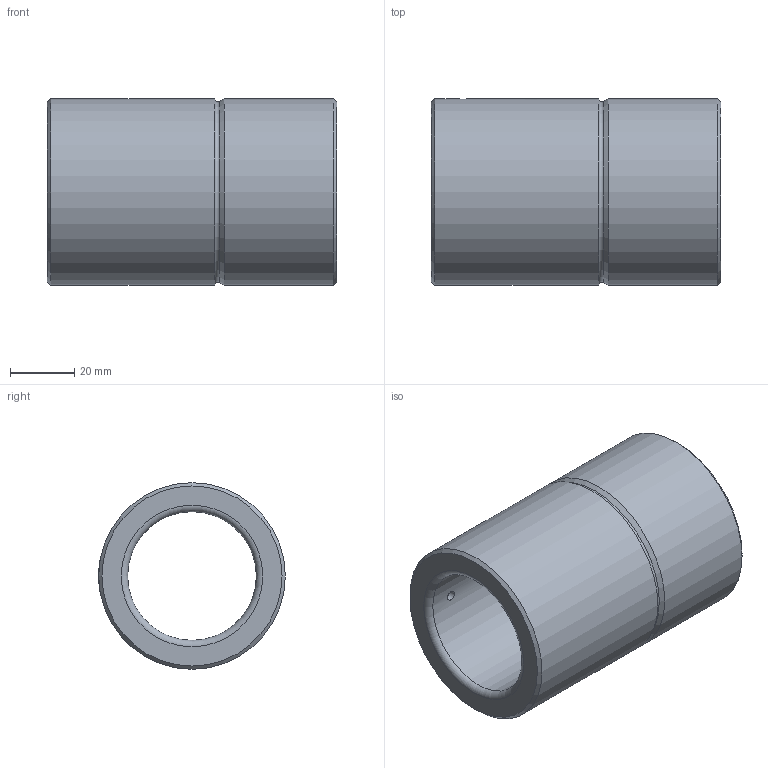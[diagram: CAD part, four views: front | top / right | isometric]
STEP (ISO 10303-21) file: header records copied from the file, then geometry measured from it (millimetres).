
FILE_DESCRIPTION( ( 'STEP AP214' ), '1' );
FILE_NAME( 'p:/temp/worker_347/temp/exporttempdir_5672_375_j487b/format_0/WZ 4068 40 x 90.stp', '2020-11-26T19:23:18', ( 'License CC BY-ND 4.0' ), ( 'CADENAS' ), ' ', 'PARTsolutions', ' ' );
FILE_SCHEMA( ( 'AUTOMOTIVE_DESIGN { 1 0 10303 214 1 1 1 1 }' ) );
Length unit declared in the file: millimetre
Products named in the file (1): _WZ 4068 40 x 90
Bounding box: 90 x 58.04 x 58.04 mm (x, y, z)
Volume: 118951.6 mm3; surface area: 30638.8 mm2
Topology: 1 solids, 1 shells, 16 faces, 29 edges, 17 vertices
Faces by surface type: cylinder 6, cone 4, plane 4, torus 2
Full cylindrical faces by diameter (mm): 3 x1, 5 x1, 40 x1, 42 x1, 58.04 x2
Entity records: 592 total; most frequent: CARTESIAN_POINT 163, DIRECTION 64, EDGE_LOOP 34, ORIENTED_EDGE 34, AXIS2_PLACEMENT_3D 32, FACE_OUTER_BOUND 24, EDGE_CURVE 17, VERTEX_POINT 17
